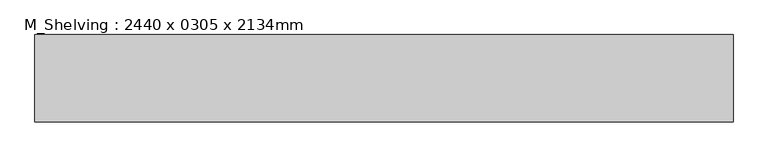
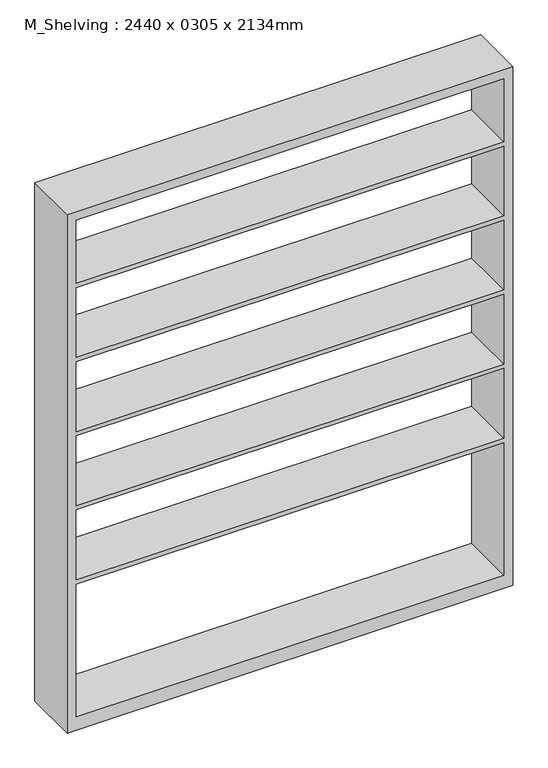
"""IFC4 building model written with IfcOpenShell, lengths in millimetres: furniture geometry, M_Shelving : 2440 x 0305 x 2134mm."""

from ifc_helpers import new_model, si_unit, frame, origin, place, context, project, spatial, polyline, outline, extrude, source, transform, mapped, element, save


def m_shelving_2440_x_0305_x_2134mm_d378ea2c(model_context):
    return source(origin(), model_context, "Body", "SweptSolid", [
        extrude(outline(polyline([(0.0, 1220.0), (3000.0, 1220.0), (3000.0, -1220.0), (0.0, -1220.0), (0.0, 1220.0)]), holes=[polyline([(2949.2, 1169.2), (2584.1285714, 1169.2), (2584.1285714, -1169.2), (2949.2, -1169.2), (2949.2, 1169.2)]), polyline([(76.2, 1169.2), (76.2, -1169.2), (844.4428571, -1169.2), (844.4428571, 1169.2), (76.2, 1169.2)]), polyline([(1726.9857143, -1169.2), (2130.1571429, -1169.2), (2130.1571429, 1169.2), (1726.9857143, 1169.2), (1726.9857143, -1169.2)]), polyline([(2558.7285714, 1169.2), (2155.5571429, 1169.2), (2155.5571429, -1169.2), (2558.7285714, -1169.2), (2558.7285714, 1169.2)]), polyline([(1701.5857143, 1169.2), (1298.4142857, 1169.2), (1298.4142857, -1169.2), (1701.5857143, -1169.2), (1701.5857143, 1169.2)]), polyline([(1273.0142857, 1169.2), (869.8428571, 1169.2), (869.8428571, -1169.2), (1273.0142857, -1169.2), (1273.0142857, 1169.2)])]), frame((0.0, -457.3, 0.0), z_axis=(0.0, 1.0, 0.0), x_axis=(0.0, 0.0, 1.0)), (0.0, 0.0, 1.0), 305.0),
    ])


if __name__ == "__main__":
    model = new_model("IFC4")
    model_context = context("Model", 3, world=origin())
    ifc_project = project(units=[si_unit("LENGTHUNIT", "METRE", prefix="MILLI")], contexts=[model_context])
    site = spatial("IfcSite", under=ifc_project)
    building = spatial("IfcBuilding", under=site)
    placement = place(None, origin())
    m_shelving_2440_x_0305_x_2134mm_shape = m_shelving_2440_x_0305_x_2134mm_d378ea2c(model_context)
    element("IfcFurniture", 1, ObjectType="M_Shelving : 2440 x 0305 x 2134mm", at=placement, inside=building, context=model_context, shape_type="MappedRepresentation", body=[
        mapped(m_shelving_2440_x_0305_x_2134mm_shape, transform((0.0, 0.0, 0.0), x_axis=(1.0, 0.0, 0.0), y_axis=(0.0, 1.0, 0.0), z_axis=(0.0, 0.0, 1.0))),
    ])
    save(model, "model.ifc")
